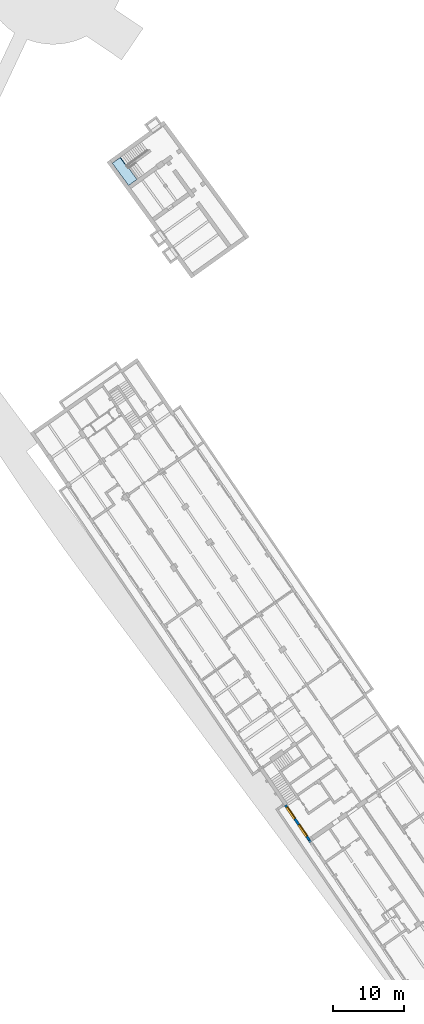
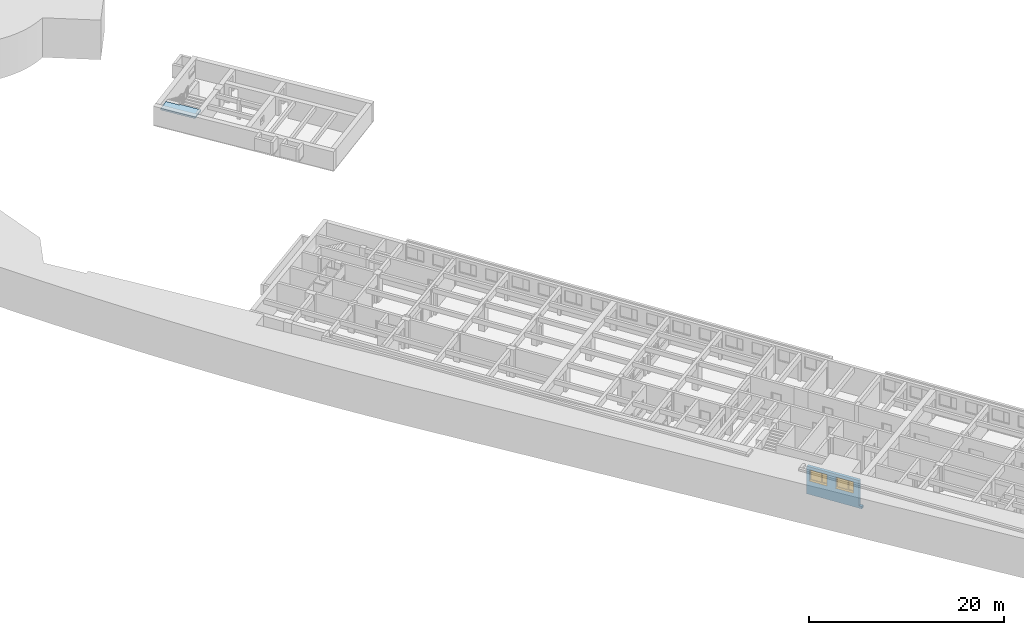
# One storey, part 97 of 112: 2 windows, 1 slab, 1 wall, 2 openings, 1 element without a shape of its own.
"""IFC2X3 building model written with IfcOpenShell, lengths in millimetres."""

from ifc_helpers import new_model, entity, si_unit, converted_unit, derived_unit, direction, frame, frame_2d, origin, place, context, subcontext, project, spatial, rectangle, extrude, faceted_brep, source, transform, mapped, material, material_list, layer, layer_set, type_object, type_shapes, element, fill, aggregate, save


model = new_model("IFC2X3")

# Units and contexts
model_context = context("Model", 3, precision=0.01, world=origin(), true_north=direction((6.123031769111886e-17, 1.0)))
body_context = subcontext(model_context, "Body", "Model", "MODEL_VIEW")
ifc_project = project(units=[si_unit("LENGTHUNIT", "METRE", prefix="MILLI"), si_unit("AREAUNIT", "SQUARE_METRE"), si_unit("VOLUMEUNIT", "CUBIC_METRE"), converted_unit("PLANEANGLEUNIT", "DEGREE", entity("IfcRatioMeasure", 0.017453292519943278), si_unit("PLANEANGLEUNIT", "RADIAN"), dimensions=[0, 0, 0, 0, 0, 0, 0]), si_unit("MASSUNIT", "GRAM", prefix="KILO"), derived_unit("MASSDENSITYUNIT", [(si_unit("MASSUNIT", "GRAM", prefix="KILO"), 1), (si_unit("LENGTHUNIT", "METRE"), -3)]), derived_unit("MOMENTOFINERTIAUNIT", [(si_unit("LENGTHUNIT", "METRE"), 4)]), si_unit("TIMEUNIT", "SECOND"), si_unit("FREQUENCYUNIT", "HERTZ"), si_unit("THERMODYNAMICTEMPERATUREUNIT", "DEGREE_CELSIUS"), derived_unit("THERMALTRANSMITTANCEUNIT", [(si_unit("MASSUNIT", "GRAM", prefix="KILO"), 1), (si_unit("THERMODYNAMICTEMPERATUREUNIT", "KELVIN"), -1), (si_unit("TIMEUNIT", "SECOND"), -3)]), derived_unit("THERMALCONDUCTANCEUNIT", [(si_unit("MASSUNIT", "GRAM", prefix="KILO"), 1), (si_unit("LENGTHUNIT", "METRE"), 1), (si_unit("THERMODYNAMICTEMPERATUREUNIT", "KELVIN"), -1), (si_unit("TIMEUNIT", "SECOND"), -3)]), derived_unit("VOLUMETRICFLOWRATEUNIT", [(si_unit("LENGTHUNIT", "METRE"), 3), (si_unit("TIMEUNIT", "SECOND"), -1)]), derived_unit("MASSFLOWRATEUNIT", [(si_unit("MASSUNIT", "GRAM", prefix="KILO"), 1), (si_unit("TIMEUNIT", "SECOND"), -1)]), derived_unit("ROTATIONALFREQUENCYUNIT", [(si_unit("TIMEUNIT", "SECOND"), -1)]), si_unit("ELECTRICCURRENTUNIT", "AMPERE"), si_unit("ELECTRICVOLTAGEUNIT", "VOLT"), si_unit("POWERUNIT", "WATT"), converted_unit("FORCEUNIT", "KIP", entity("IfcRatioMeasure", 2.088543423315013e-05), si_unit("FORCEUNIT", "NEWTON"), dimensions=[1, 1, -2, 0, 0, 0, 0]), si_unit("ILLUMINANCEUNIT", "LUX"), si_unit("LUMINOUSFLUXUNIT", "LUMEN"), si_unit("LUMINOUSINTENSITYUNIT", "CANDELA"), derived_unit("USERDEFINED", [(si_unit("MASSUNIT", "GRAM", prefix="KILO"), -1), (si_unit("LENGTHUNIT", "METRE"), -2), (si_unit("TIMEUNIT", "SECOND"), 3), (si_unit("LUMINOUSFLUXUNIT", "LUMEN"), 1)]), derived_unit("USERDEFINED", [(si_unit("MASSUNIT", "GRAM", prefix="KILO"), 1), (si_unit("LENGTHUNIT", "METRE"), 3), (si_unit("TIMEUNIT", "SECOND"), -3), (si_unit("ELECTRICCURRENTUNIT", "AMPERE"), -2)]), derived_unit("USERDEFINED", [(si_unit("LENGTHUNIT", "METRE"), 2), (si_unit("TIMEUNIT", "SECOND"), -2)]), derived_unit("SOUNDPOWERUNIT", [(si_unit("MASSUNIT", "GRAM", prefix="KILO"), 1), (si_unit("LENGTHUNIT", "METRE"), 2), (si_unit("TIMEUNIT", "SECOND"), -3)]), derived_unit("SOUNDPRESSUREUNIT", [(si_unit("MASSUNIT", "GRAM", prefix="KILO"), 1), (si_unit("LENGTHUNIT", "METRE"), -1), (si_unit("TIMEUNIT", "SECOND"), -2)]), derived_unit("LINEARVELOCITYUNIT", [(si_unit("LENGTHUNIT", "METRE"), 1), (si_unit("TIMEUNIT", "SECOND"), -1)]), si_unit("PRESSUREUNIT", "PASCAL"), derived_unit("USERDEFINED", [(si_unit("LENGTHUNIT", "METRE"), -2), (si_unit("MASSUNIT", "GRAM", prefix="KILO"), 1), (si_unit("TIMEUNIT", "SECOND"), -2)]), derived_unit("LINEARFORCEUNIT", [(si_unit("MASSUNIT", "GRAM", prefix="KILO"), 1), (si_unit("LENGTHUNIT", "METRE"), 1), (si_unit("TIMEUNIT", "SECOND"), -2), (si_unit("LENGTHUNIT", "METRE"), -1)]), derived_unit("PLANARFORCEUNIT", [(si_unit("MASSUNIT", "GRAM", prefix="KILO"), 1), (si_unit("LENGTHUNIT", "METRE"), 1), (si_unit("TIMEUNIT", "SECOND"), -2), (si_unit("LENGTHUNIT", "METRE"), -2)]), derived_unit("SPECIFICHEATCAPACITYUNIT", [(si_unit("LENGTHUNIT", "METRE"), 2), (si_unit("TIMEUNIT", "SECOND"), -2), (si_unit("THERMODYNAMICTEMPERATUREUNIT", "KELVIN"), -1)]), derived_unit("VAPORPERMEABILITYUNIT", [(si_unit("TIMEUNIT", "SECOND"), 1), (si_unit("LENGTHUNIT", "METRE"), -1)]), derived_unit("DYNAMICVISCOSITYUNIT", [(si_unit("MASSUNIT", "GRAM", prefix="KILO"), 1), (si_unit("LENGTHUNIT", "METRE"), -1), (si_unit("TIMEUNIT", "SECOND"), -1)]), derived_unit("THERMALEXPANSIONCOEFFICIENTUNIT", [(si_unit("THERMODYNAMICTEMPERATUREUNIT", "KELVIN"), -1)])], contexts=[model_context])

# Site, building, storey
site_placement = place(None, frame((0.0, 0.0, 0.0), z_axis=(0.0, 0.0, 1.0), x_axis=(0.8191520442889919, 0.5735764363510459, 0.0)))
site = spatial("IfcSite", under=ifc_project, at=site_placement, Name="Default", CompositionType="ELEMENT")
building_placement = place(site_placement, origin())
building = spatial("IfcBuilding", under=site, at=building_placement, CompositionType="ELEMENT")
storey_placement = place(building_placement, frame((0.0, 0.0, -3600.0)))
storey = spatial("IfcBuildingStorey", under=building, at=storey_placement, Name="0.UG -3.60", CompositionType="ELEMENT", Elevation=-3600.0000000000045)

# Stair, slab
stair_placement = place(storey_placement, origin())
stair = element("IfcStair", 1, at=stair_placement, inside=storey, Name="Precast Stair:Stair", ObjectType="Precast Stair:Stair_CJC_KH", ShapeType="NOTDEFINED")
ifc_material_1 = material(Name="Concrete, Cast-in-Place gray")
slab_type = type_object("IfcSlabType", Name="Monolithic Landing:200mm_Thickness", PredefinedType="LANDING")
slab_placement = place(stair_placement, frame((-191148.50347537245, 193622.948612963, 0.0)))
slab = element("IfcSlab", 2, at=slab_placement, type_object=slab_type, material=ifc_material_1, Name="Precast Stair:Stair:623964 Landing 1", ObjectType="Monolithic Landing:200mm_Thickness", PredefinedType="LANDING", context=body_context, shape_type="Brep", body=[
    faceted_brep([(1492.4970606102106, 2406.734915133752, 1837.5000000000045), (1385.7674085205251, 2404.397177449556, 1837.5000000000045), (1352.920251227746, 3904.037489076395, 1837.5000000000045), (0.0, 3874.403993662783, 1837.5000000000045), (84.86245428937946, 0.0, 1837.5000000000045), (1538.5532407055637, 22.887658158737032, 1837.5000000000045), (1507.0681104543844, 2022.639814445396, 1837.5000000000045), (1500.9121556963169, 2022.5428919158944, 1837.5000000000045), (1492.4970606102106, 2406.734915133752, 1836.5000000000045), (1500.9121556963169, 2022.5428919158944, 1836.5000000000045), (1507.0681104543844, 2022.639814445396, 1836.5000000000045), (1538.5532407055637, 22.887658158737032, 1836.5000000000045), (84.86245428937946, 0.0, 1836.5000000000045), (0.0, 3874.403993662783, 1836.5000000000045), (1352.920251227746, 3904.037489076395, 1836.5000000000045), (1385.7674085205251, 2404.397177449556, 1836.5000000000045)], [[[0, 1, 2, 3, 4, 5, 6, 7]], [[8, 9, 10, 11, 12, 13, 14, 15]], [[3, 2, 14, 13]], [[4, 3, 13, 12]], [[7, 6, 10, 9]], [[1, 0, 8, 15]], [[2, 1, 15, 14]], [[5, 4, 12, 11]], [[6, 5, 11, 10]], [[0, 7, 9, 8]]]),
    faceted_brep([(0.0, 3874.403993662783, 1836.5000000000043), (84.86245428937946, 0.0, 1836.5000000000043), (1538.5532407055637, 22.887658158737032, 1836.5000000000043), (1507.0681104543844, 2022.639814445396, 1836.5000000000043), (1500.9121556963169, 2022.5428919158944, 1836.5000000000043), (1492.5318238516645, 2405.1477958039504, 1836.5000000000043), (1385.802171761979, 2402.8100581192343, 1836.5000000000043), (1352.920251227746, 3904.037489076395, 1836.5000000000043), (0.0, 3874.403993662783, 1636.5000000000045), (1352.9202512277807, 3904.037489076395, 1726.5000000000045), (1452.8962720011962, 3906.227299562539, 1726.5000000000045), (1452.896272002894, 3906.2272995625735, 1636.5000000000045), (84.86245428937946, 0.0, 1636.5000000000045), (1507.0681104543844, 2022.639814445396, 1636.5000000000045), (1500.9121556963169, 2022.5428919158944, 1636.5000000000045), (1492.5318238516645, 2405.1477958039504, 1636.5000000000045), (1485.7781925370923, 2404.9998686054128, 1636.5000000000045), (1538.5532407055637, 22.887658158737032, 1636.5000000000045), (1385.802171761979, 2402.8100581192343, 1726.5000000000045), (1485.778192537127, 2404.9998686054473, 1726.5000000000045)], [[[0, 1, 2, 3, 4, 5, 6, 7]], [[8, 0, 7, 9, 10, 11]], [[1, 0, 8, 12]], [[4, 3, 13, 14]], [[4, 14, 15, 5]], [[12, 8, 11, 16, 15, 14, 13, 17]], [[2, 1, 12, 17]], [[3, 2, 17, 13]], [[18, 19, 10, 9]], [[6, 18, 9, 7]], [[18, 6, 5, 15, 16, 19]], [[10, 19, 16, 11]]]),
])
aggregate(stair, [slab])

# Wall, openings, windows
ifc_material_2 = material(Name="Analytical Wall Surface_CJC")
ifc_layer = layer(ifc_material_2, 350.0)
ifc_layer_set = layer_set([ifc_layer], Name="Basic Wall:Wand_Aussen_35")
wall_type = type_object("IfcWallType", Name="Basic Wall:Wand_Aussen_35", PredefinedType="STANDARD", material=ifc_layer_set)
wall_placement = place(storey_placement, frame((-223082.05536283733, 103219.13123650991, 0.0), z_axis=(0.0, 0.0, 1.0), x_axis=(0.012729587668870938, 0.9999189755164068, 0.0)))
wall = element("IfcWall", 3, at=wall_placement, inside=storey, type_object=wall_type, Name="Basic Wall:Wand_Aussen_35", ObjectType="Basic Wall:Wand_Aussen_35", context=body_context, shape_type="Brep", body=[
    faceted_brep([(4.455716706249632, -175.0, 0.0), (654.5083868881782, -175.0, 0.0), (6300.509713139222, -175.0, 0.0), (6300.509713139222, -175.0, 3450.0), (654.5083868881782, -175.0, 3450.0), (327.2541934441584, -175.0, 3450.0), (327.2541934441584, -175.0, 300.0), (4.455716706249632, -175.0, 300.0), (2979.6960016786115, -175.0, 3100.0), (2979.6960016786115, -175.0, 1700.0), (979.6960016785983, -175.0, 1700.0), (979.6960016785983, -175.0, 3100.0), (5979.939094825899, -175.0, 3100.0), (5979.939094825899, -175.0, 1700.0), (3979.939094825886, -175.0, 1700.0), (3979.939094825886, -175.0, 3100.0), (0.0, 175.0, 0.0), (0.0, 175.0, 300.0), (327.25419344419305, 175.0, 300.0), (327.25419344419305, 175.0, 3450.0), (6300.509713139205, 175.0, 3450.0), (6300.509713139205, 175.0, 0.0), (2979.6960016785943, 175.0, 3100.0), (979.6960016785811, 175.0, 3100.0), (979.6960016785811, 175.0, 1700.0), (2979.6960016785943, 175.0, 1700.0), (5979.9390948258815, 175.0, 3100.0), (3979.939094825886, 175.0, 3100.0), (3979.939094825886, 175.0, 1700.0), (5979.9390948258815, 175.0, 1700.0)], [[[0, 1, 2, 3, 4, 5, 6, 7], [8, 9, 10, 11], [12, 13, 14, 15]], [[16, 17, 18, 19, 20, 21], [22, 23, 24, 25], [26, 27, 28, 29]], [[2, 1, 0, 16, 21]], [[3, 2, 21, 20]], [[5, 4, 3, 20, 19]], [[6, 5, 19, 18]], [[6, 18, 17, 7]], [[0, 7, 17, 16]], [[9, 8, 22, 25]], [[10, 9, 25, 24]], [[11, 10, 24, 23]], [[8, 11, 23, 22]], [[13, 12, 26, 29]], [[14, 13, 29, 28]], [[15, 14, 28, 27]], [[12, 15, 27, 26]]]),
])
opening_1_placement = place(wall_placement, frame((2979.696001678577, 175.0, 1700.0)))
opening_1 = element("IfcOpeningElement", 4, at=opening_1_placement, cuts=wall, Name="Windows_Dbl_Plain:200x140:1", ObjectType="Opening", context=body_context, shape_type="SweptSolid", body=[
    extrude(rectangle(XDim=1400.0000000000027, YDim=1999.9999999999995, at=frame_2d((700.0000000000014, 1000.0000000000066), x_axis=(-1.0, 0.0))), frame((0.0, 0.0, 0.0), z_axis=(0.0, -1.0, 0.0), x_axis=(0.0, 0.0, 1.0)), (0.0, 0.0, 1.0), 350.0),
])
opening_2_placement = place(wall_placement, frame((5979.939094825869, 175.0, 1700.0)))
opening_2 = element("IfcOpeningElement", 5, at=opening_2_placement, cuts=wall, Name="Windows_Dbl_Plain:200x140:1", ObjectType="Opening", context=body_context, shape_type="SweptSolid", body=[
    extrude(rectangle(XDim=1400.0000000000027, YDim=1999.9999999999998, at=frame_2d((700.0000000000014, 1000.0000000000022), x_axis=(-1.0, 0.0))), frame((0.0, 0.0, 0.0), z_axis=(0.0, -1.0, 0.0), x_axis=(0.0, 0.0, 1.0)), (0.0, 0.0, 1.0), 350.0),
])
ifc_material_3 = material(Name="Window Frame")
ifc_material_4 = material(Name="Glass")
ifc_material_list = material_list([ifc_material_3, ifc_material_4])
window_style = type_object("IfcWindowStyle", Name="Windows_Dbl_Plain:200x140", ConstructionType="NOTDEFINED", OperationType="DOUBLE_PANEL_VERTICAL", ParameterTakesPrecedence=False, Sizeable=False, material=ifc_material_list)
shared_shape = source(origin(), body_context, "Body", "Brep", [
    faceted_brep([(-25.0, -25.0, 0.0), (-25.0, 0.0, 0.0), (0.0, 0.0, 0.0), (0.0, 217.0, 0.0), (2000.0, 217.0, 0.0), (2000.0, 0.0, 0.0), (2025.0, 0.0, 0.0), (2025.0, -25.0, 0.0), (-25.0, -25.0, 25.0), (2025.0, -25.0, 25.0), (2025.0, 0.0, 25.0), (2000.0, 0.0, 25.0), (2000.0, 217.0, 25.0), (0.0, 217.0, 25.0), (0.0, 0.0, 25.0), (-25.0, 0.0, 25.0)], [[[0, 1, 2, 3, 4, 5, 6, 7]], [[8, 9, 10, 11, 12, 13, 14, 15]], [[1, 0, 8, 15]], [[2, 1, 15, 14]], [[3, 2, 14, 13]], [[4, 3, 13, 12]], [[5, 4, 12, 11]], [[6, 5, 11, 10]], [[7, 6, 10, 9]], [[0, 7, 9, 8]]]),
    faceted_brep([(1345.0, 264.0, 1330.0), (1345.0, 264.0, 93.0), (1930.0, 264.0, 93.0), (1930.0, 264.0, 1330.0), (1345.0, 288.0, 1330.0), (1930.0, 288.0, 1330.0), (1930.0, 288.0, 93.0), (1345.0, 288.0, 93.0)], [[[0, 1, 2, 3]], [[4, 5, 6, 7]], [[1, 0, 4, 7]], [[2, 1, 7, 6]], [[3, 2, 6, 5]], [[0, 3, 5, 4]]]),
    faceted_brep([(1305.0, 259.0, 1360.0), (1305.0, 259.0, 63.0), (40.0, 259.0, 63.0), (40.0, 259.0, 1360.0), (1305.0, 235.0, 1360.0), (40.0, 235.0, 1360.0), (40.0, 235.0, 63.0), (1305.0, 235.0, 63.0)], [[[0, 1, 2, 3]], [[4, 5, 6, 7]], [[1, 0, 4, 7]], [[2, 1, 7, 6]], [[3, 2, 6, 5]], [[0, 3, 5, 4]]]),
    faceted_brep([(1940.0, 217.0, 1340.0), (1940.0, 217.0, 75.0), (1333.0, 217.0, 75.0), (1333.0, 217.0, 1340.0), (1275.0, 217.0, 1340.0), (1275.0, 217.0, 75.0), (60.0, 217.0, 75.0), (60.0, 217.0, 1340.0), (2000.0, 217.0, 1400.0), (0.0, 217.0, 1400.0), (0.0, 217.0, 0.0), (2000.0, 217.0, 0.0), (0.0, 300.0, 1400.0), (0.0, 300.0, 51.0), (0.0, 315.0, 49.687670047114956), (0.0, 315.0, 44.74496761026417), (0.0, 387.50000000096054, 33.80888466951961), (0.0, 387.50000000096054, 0.0), (2000.0, 300.0, 1400.0), (2000.0, 300.0, 51.0), (40.0, 300.0, 1360.0), (40.0, 300.0, 63.0), (1275.0, 300.0, 63.0), (1275.0, 300.0, 1360.0), (1315.0, 300.0, 1360.0), (1315.0, 300.0, 63.0), (1960.0, 300.0, 63.0), (1960.0, 300.0, 1360.0), (40.0, 235.0, 1360.0), (40.0, 235.0, 63.0), (1285.0, 235.0, 1360.0), (1285.0, 235.0, 63.0), (1275.0, 235.0, 1340.0), (60.0, 235.0, 1340.0), (60.0, 235.0, 75.0), (1275.0, 235.0, 75.0), (1275.0, 259.0, 1360.0), (1285.0, 259.0, 1360.0), (2000.0, 387.50000000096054, 0.0), (2000.0, 387.50000000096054, 33.80888466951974), (2000.0, 315.0, 44.744967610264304), (2000.0, 315.0, 49.68767004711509), (1960.0, 235.0, 63.0), (1960.0, 235.0, 1360.0), (1940.0, 235.0, 1340.0), (1940.0, 235.0, 75.0), (1285.0, 259.0, 63.0), (1275.0, 259.0, 63.0), (1315.0, 235.0, 1360.0), (1315.0, 235.0, 63.0), (1333.0, 235.0, 1340.0), (1333.0, 235.0, 75.0)], [[[0, 1, 2, 3], [4, 5, 6, 7], [8, 9, 10, 11]], [[10, 9, 12, 13, 14, 15, 16, 17]], [[13, 12, 18, 19], [20, 21, 22, 23], [24, 25, 26, 27]], [[21, 20, 28, 29]], [[28, 30, 31, 29], [32, 33, 34, 35]], [[33, 7, 6, 34]], [[9, 8, 18, 12]], [[28, 20, 23, 36, 37, 30]], [[7, 33, 32, 4]], [[19, 18, 8, 11, 38, 39, 40, 41]], [[27, 26, 42, 43]], [[0, 44, 45, 1]], [[37, 46, 31, 30]], [[46, 37, 36, 47]], [[47, 36, 23, 22]], [[25, 24, 48, 49]], [[50, 3, 2, 51]], [[4, 32, 35, 5]], [[38, 11, 10, 17]], [[39, 38, 17, 16]], [[40, 39, 16, 15]], [[41, 40, 15, 14]], [[19, 41, 14, 13]], [[26, 25, 49, 42]], [[2, 1, 45, 51]], [[35, 34, 6, 5]], [[22, 21, 29, 31, 46, 47]], [[44, 0, 3, 50]], [[27, 43, 48, 24]], [[48, 43, 42, 49], [44, 50, 51, 45]]], outer=[[False, False, True], [True], [True, False, False], [True], [True, False], [True], [True], [True], [True], [True], [True], [True], [True], [True], [True], [True], [True], [True], [True], [True], [True], [True], [True], [True], [True], [True], [True], [True], [True], [True, False]]),
    faceted_brep([(1305.0, 300.0, 1370.0), (1305.0, 305.77350269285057, 1370.0), (1305.0, 305.77350269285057, 53.0), (1305.0, 300.0, 53.0), (1315.0, 235.0, 1360.0), (1315.0, 300.0, 1360.0), (1315.0, 300.0, 63.0), (1315.0, 235.0, 63.0), (1355.0, 249.49289985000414, 1320.0), (1344.851962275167, 235.0, 1330.148037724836), (1344.851962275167, 235.0, 92.85196227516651), (1355.0, 249.49289985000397, 103.0), (1355.0, 264.0, 1320.0), (1355.0, 264.0, 103.0), (1345.0, 288.0, 1330.0), (1345.0, 264.0, 1330.0), (1345.0, 264.0, 93.0), (1345.0, 288.0, 93.0), (1355.0, 305.77350269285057, 1320.0), (1355.0, 288.0, 1320.0), (1355.0, 288.0, 103.0), (1355.0, 305.77350269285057, 103.0), (1337.5542451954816, 311.5470053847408, 1337.4457548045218), (1337.5542451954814, 311.54700538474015, 85.55424519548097), (1315.7846096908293, 311.547005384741, 1359.215390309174), (1315.7846096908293, 311.54700538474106, 63.78460969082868), (1970.0, 305.7735026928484, 53.0), (1970.0, 300.0, 53.0), (1960.0, 300.0, 63.0), (1960.0, 235.0, 63.0), (1930.1480377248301, 235.0, 92.85196227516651), (1920.0, 249.49289985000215, 103.0), (1920.0, 264.0, 103.0), (1930.0, 264.0, 93.0), (1930.0, 288.0, 93.0), (1920.0, 288.0, 103.0), (1920.0, 305.77350269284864, 103.0), (1937.445754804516, 311.5470053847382, 85.55424519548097), (1959.2153903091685, 311.5470053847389, 63.784609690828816), (1970.0, 305.7735026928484, 1370.0), (1970.0, 300.0, 1370.0), (1960.0, 300.0, 1360.0), (1960.0, 235.0, 1360.0), (1930.1480377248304, 235.0, 1330.148037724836), (1920.0, 249.49289985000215, 1320.0), (1920.0, 264.0, 1320.0), (1930.0, 264.0, 1330.0), (1930.0, 288.0, 1330.0), (1920.0, 288.0, 1320.0), (1920.0, 305.77350269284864, 1320.0), (1937.445754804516, 311.54700538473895, 1337.4457548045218), (1959.2153903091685, 311.5470053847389, 1359.215390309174)], [[[0, 1, 2, 3]], [[4, 5, 6, 7]], [[8, 9, 10, 11]], [[12, 8, 11, 13]], [[14, 15, 16, 17]], [[18, 19, 20, 21]], [[22, 18, 21, 23]], [[1, 24, 25, 2]], [[3, 2, 26, 27]], [[7, 6, 28, 29]], [[11, 10, 30, 31]], [[13, 11, 31, 32]], [[17, 16, 33, 34]], [[21, 20, 35, 36]], [[23, 21, 36, 37]], [[2, 25, 38, 26]], [[27, 26, 39, 40]], [[29, 28, 41, 42]], [[31, 30, 43, 44]], [[32, 31, 44, 45]], [[34, 33, 46, 47]], [[36, 35, 48, 49]], [[37, 36, 49, 50]], [[26, 38, 51, 39]], [[40, 39, 1, 0]], [[3, 27, 40, 0], [5, 41, 28, 6]], [[42, 41, 5, 4]], [[7, 29, 42, 4], [9, 43, 30, 10]], [[44, 43, 9, 8]], [[45, 44, 8, 12]], [[13, 32, 45, 12], [15, 46, 33, 16]], [[47, 46, 15, 14]], [[17, 34, 47, 14], [19, 48, 35, 20]], [[49, 48, 19, 18]], [[50, 49, 18, 22]], [[23, 37, 50, 22], [24, 51, 38, 25]], [[39, 51, 24, 1]]], outer=[[True], [True], [True], [True], [True], [True], [True], [True], [True], [True], [True], [True], [True], [True], [True], [True], [True], [True], [True], [True], [True], [True], [True], [True], [True], [True, False], [True], [True, False], [True], [True], [False, True], [True], [True, False], [True], [True], [False, True], [True]]),
])
type_shapes(window_style, [shared_shape])
window_1_placement = place(opening_1_placement, frame((0.0, 0.0, 0.0), z_axis=(0.0, 0.0, 1.0), x_axis=(-1.0, 0.0, 0.0)))
window_1 = element("IfcWindow", 6, at=window_1_placement, inside=storey, type_object=window_style, material=ifc_material_list, Name="Windows_Dbl_Plain:200x140", ObjectType="Windows_Dbl_Plain:200x140", OverallHeight=1400.0000000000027, OverallWidth=2000.0000000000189, context=body_context, shape_type="MappedRepresentation", body=[
    mapped(shared_shape, transform((0.0, 0.0, 0.0), scale=1.0)),
])
fill(opening_1, window_1)
window_2_placement = place(opening_2_placement, frame((0.0, 0.0, 0.0), z_axis=(0.0, 0.0, 1.0), x_axis=(-1.0, 0.0, 0.0)))
window_2 = element("IfcWindow", 7, at=window_2_placement, inside=storey, type_object=window_style, material=ifc_material_list, Name="Windows_Dbl_Plain:200x140", ObjectType="Windows_Dbl_Plain:200x140", OverallHeight=1400.0000000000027, OverallWidth=2000.0000000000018, context=body_context, shape_type="MappedRepresentation", body=[
    mapped(shared_shape, transform((0.0, 0.0, 0.0), scale=1.0)),
])
fill(opening_2, window_2)

save(model, "model.ifc")
